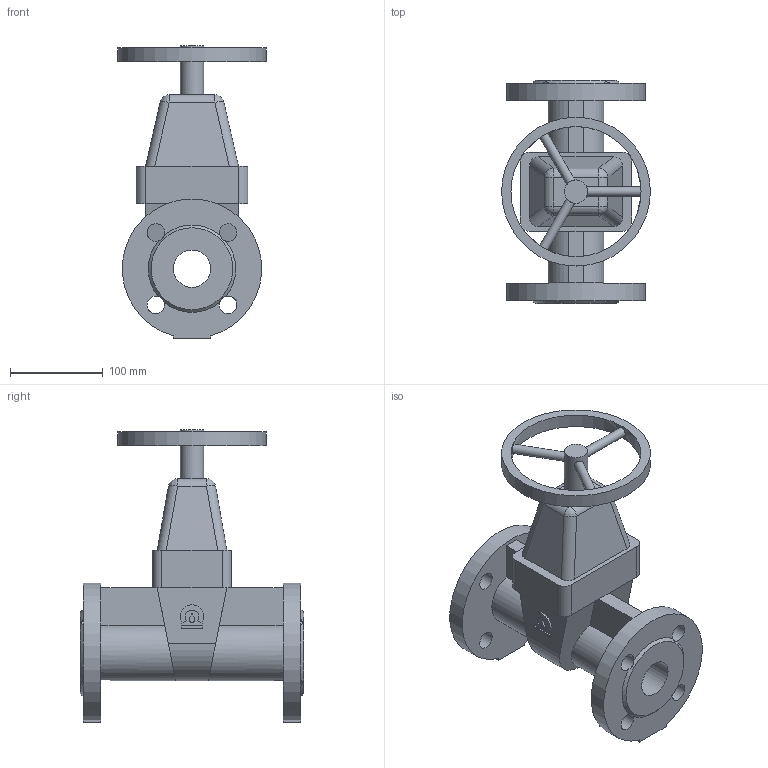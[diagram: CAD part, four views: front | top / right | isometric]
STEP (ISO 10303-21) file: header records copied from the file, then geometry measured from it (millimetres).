
FILE_DESCRIPTION(('STEP AP203'), '1');
FILE_NAME('Çàäâèæêà 47GV DN40 PN10_PN16_L240 ñ ìàõîâèêîì', '', ('UNSPECIFIED'), ('UNSPECIFIED'), 'ASCON STEP Converter 1.6', 'ASCON Math Kernel', '');
FILE_SCHEMA(('CONFIG_CONTROL_DESIGN'));
Length unit declared in the file: millimetre
Bounding box: 160 x 240 x 315 mm (x, y, z)
Volume: 2298254.2 mm3; surface area: 256197 mm2
Topology: 1 solids, 1 shells, 96 faces, 259 edges, 164 vertices
Faces by surface type: plane 50, cylinder 40, bspline 4, cone 2
Full cylindrical faces by diameter (mm): 10 x3, 19 x8, 25 x1, 40 x1, 140 x1, 160 x1
Entity records: 5384 total; most frequent: CARTESIAN_POINT 2209, DIRECTION 482, ORIENTED_EDGE 476, EDGE_CURVE 238, AXIS2_PLACEMENT_3D 177, VERTEX_POINT 164, EDGE_LOOP 140, LINE 128
